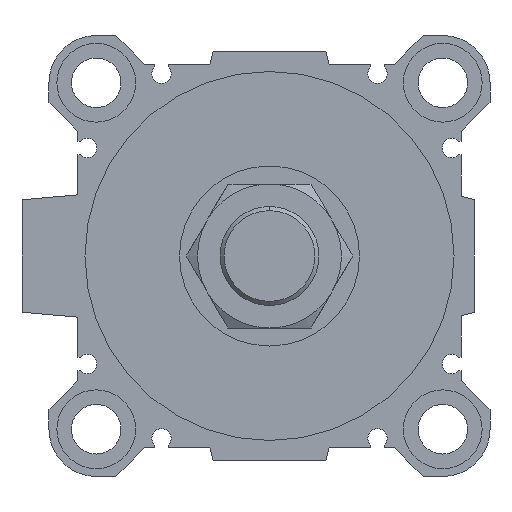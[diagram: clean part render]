
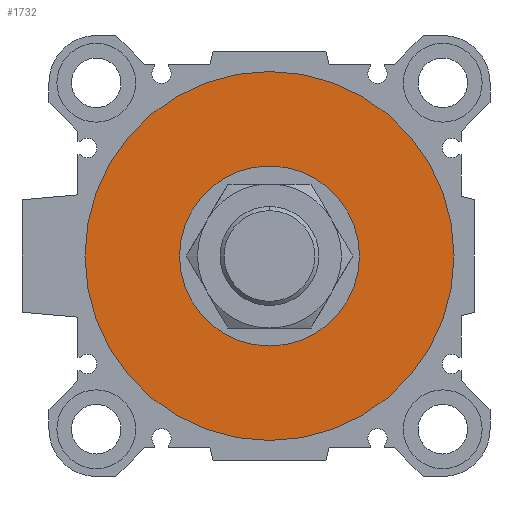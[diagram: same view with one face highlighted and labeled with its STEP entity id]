
A CAD part, left-side view. The second image highlights one B-rep face of the part: STEP entity #1732.
In plain terms, the highlighted planar face has unit normal (-1, 0, 0).
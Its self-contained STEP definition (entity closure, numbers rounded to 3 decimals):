
#71 = DIRECTION ( 'NONE',  ( 1., 0., 0. ) ) ;
#404 = AXIS2_PLACEMENT_3D ( 'NONE', #1028, #7324, #6786 ) ;
#514 = CARTESIAN_POINT ( 'NONE',  ( 5., 0., 0. ) ) ;
#939 = CIRCLE ( 'NONE', #4482, 20. ) ;
#958 = VERTEX_POINT ( 'NONE', #1096 ) ;
#1028 = CARTESIAN_POINT ( 'NONE',  ( 5., 0., 0. ) ) ;
#1096 = CARTESIAN_POINT ( 'NONE',  ( 5., 0., -20. ) ) ;
#1118 = DIRECTION ( 'NONE',  ( 0., 0., -1. ) ) ;
#1275 = CARTESIAN_POINT ( 'NONE',  ( 5., 0., 0. ) ) ;
#1463 = EDGE_LOOP ( 'NONE', ( #1981, #7050 ) ) ;
#1570 = DIRECTION ( 'NONE',  ( 0., 0., -1. ) ) ;
#1662 = EDGE_LOOP ( 'NONE', ( #4888, #2430 ) ) ;
#1732 = ADVANCED_FACE ( 'NONE', ( #4703, #3620 ), #5313, .F. ) ;
#1981 = ORIENTED_EDGE ( 'NONE', *, *, #3721, .T. ) ;
#2218 = CARTESIAN_POINT ( 'NONE',  ( 5., 0., -41. ) ) ;
#2394 = DIRECTION ( 'NONE',  ( 0., 1., 0. ) ) ;
#2430 = ORIENTED_EDGE ( 'NONE', *, *, #2792, .F. ) ;
#2792 = EDGE_CURVE ( 'NONE', #4579, #5439, #2799, .T. ) ;
#2799 = CIRCLE ( 'NONE', #4014, 41. ) ;
#3029 = DIRECTION ( 'NONE',  ( 0., 0., -1. ) ) ;
#3045 = CARTESIAN_POINT ( 'NONE',  ( 5., 0., 0. ) ) ;
#3133 = CARTESIAN_POINT ( 'NONE',  ( 5., 0., 20. ) ) ;
#3354 = AXIS2_PLACEMENT_3D ( 'NONE', #1275, #6654, #3029 ) ;
#3375 = CARTESIAN_POINT ( 'NONE',  ( 5., 0., 41. ) ) ;
#3477 = AXIS2_PLACEMENT_3D ( 'NONE', #3045, #71, #2394 ) ;
#3620 = FACE_BOUND ( 'NONE', #1463, .T. ) ;
#3721 = EDGE_CURVE ( 'NONE', #6788, #958, #939, .T. ) ;
#4014 = AXIS2_PLACEMENT_3D ( 'NONE', #6175, #6830, #1570 ) ;
#4054 = CIRCLE ( 'NONE', #404, 41. ) ;
#4063 = DIRECTION ( 'NONE',  ( 1., 0., 0. ) ) ;
#4482 = AXIS2_PLACEMENT_3D ( 'NONE', #514, #4063, #1118 ) ;
#4579 = VERTEX_POINT ( 'NONE', #2218 ) ;
#4703 = FACE_OUTER_BOUND ( 'NONE', #1662, .T. ) ;
#4888 = ORIENTED_EDGE ( 'NONE', *, *, #6903, .F. ) ;
#5313 = PLANE ( 'NONE',  #3477 ) ;
#5323 = EDGE_CURVE ( 'NONE', #958, #6788, #6672, .T. ) ;
#5439 = VERTEX_POINT ( 'NONE', #3375 ) ;
#6175 = CARTESIAN_POINT ( 'NONE',  ( 5., 0., 0. ) ) ;
#6654 = DIRECTION ( 'NONE',  ( 1., 0., 0. ) ) ;
#6672 = CIRCLE ( 'NONE', #3354, 20. ) ;
#6786 = DIRECTION ( 'NONE',  ( 0., 0., -1. ) ) ;
#6788 = VERTEX_POINT ( 'NONE', #3133 ) ;
#6830 = DIRECTION ( 'NONE',  ( 1., 0., 0. ) ) ;
#6903 = EDGE_CURVE ( 'NONE', #5439, #4579, #4054, .T. ) ;
#7050 = ORIENTED_EDGE ( 'NONE', *, *, #5323, .T. ) ;
#7324 = DIRECTION ( 'NONE',  ( 1., 0., 0. ) ) ;
